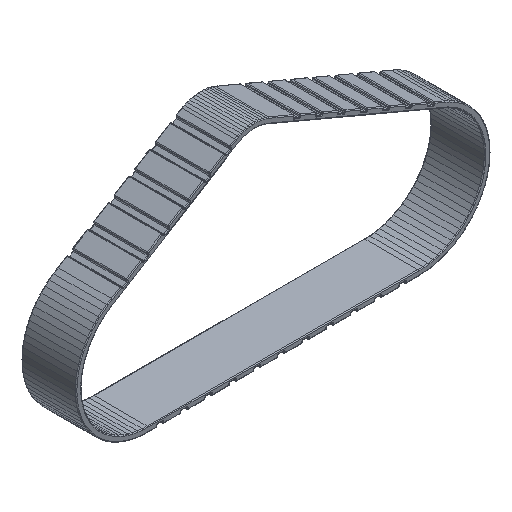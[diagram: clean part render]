
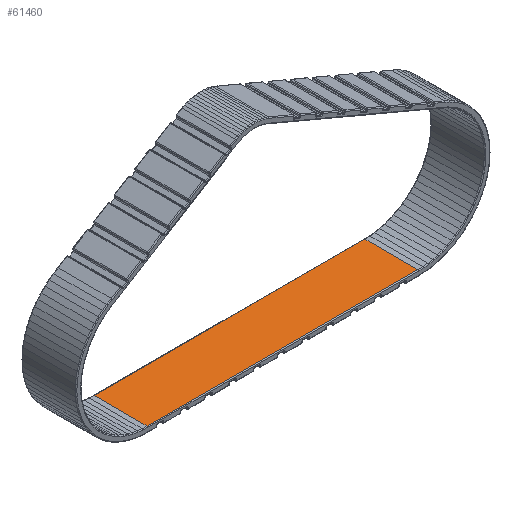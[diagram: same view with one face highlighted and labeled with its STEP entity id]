
A CAD part, isometric view. The second image highlights one B-rep face of the part: STEP entity #61460.
In plain terms, the highlighted planar face has unit normal (0, 0, 1).
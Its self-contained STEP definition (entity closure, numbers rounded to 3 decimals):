
#7145 = CYLINDRICAL_SURFACE('',#7146,0.4);
#7146 = AXIS2_PLACEMENT_3D('',#7147,#7148,#7149);
#7147 = CARTESIAN_POINT('',(-67.,65.4,-77.7));
#7148 = DIRECTION('',(1.,0.,0.));
#7149 = DIRECTION('',(0.,-1.,0.));
#16041 = CYLINDRICAL_SURFACE('',#16042,0.4);
#16042 = AXIS2_PLACEMENT_3D('',#16043,#16044,#16045);
#16043 = CARTESIAN_POINT('',(67.,91.6,-77.7));
#16044 = DIRECTION('',(-1.,0.,0.));
#16045 = DIRECTION('',(0.,1.,0.));
#32003 = VERTEX_POINT('',#32004);
#32004 = CARTESIAN_POINT('',(-67.,65.4,-77.3));
#32024 = EDGE_CURVE('',#32003,#32025,#32027,.T.);
#32025 = VERTEX_POINT('',#32026);
#32026 = CARTESIAN_POINT('',(67.,65.4,-77.3));
#32027 = SURFACE_CURVE('',#32028,(#32032,#32039),.PCURVE_S1.);
#32028 = LINE('',#32029,#32030);
#32029 = CARTESIAN_POINT('',(-67.,65.4,-77.3));
#32030 = VECTOR('',#32031,1.);
#32031 = DIRECTION('',(1.,0.,0.));
#32032 = PCURVE('',#7145,#32033);
#32033 = DEFINITIONAL_REPRESENTATION('',(#32034),#32038);
#32034 = LINE('',#32035,#32036);
#32035 = CARTESIAN_POINT('',(-1.571,0.));
#32036 = VECTOR('',#32037,1.);
#32037 = DIRECTION('',(-0.,1.));
#32038 = ( GEOMETRIC_REPRESENTATION_CONTEXT(2) 
PARAMETRIC_REPRESENTATION_CONTEXT() REPRESENTATION_CONTEXT('2D SPACE',''
  ) );
#32039 = PCURVE('',#32040,#32045);
#32040 = PLANE('',#32041);
#32041 = AXIS2_PLACEMENT_3D('',#32042,#32043,#32044);
#32042 = CARTESIAN_POINT('',(-6.474,72.026,
    -77.3));
#32043 = DIRECTION('',(-0.,-0.,-1.));
#32044 = DIRECTION('',(-1.,0.,0.));
#32045 = DEFINITIONAL_REPRESENTATION('',(#32046),#32050);
#32046 = LINE('',#32047,#32048);
#32047 = CARTESIAN_POINT('',(60.526,-6.626));
#32048 = VECTOR('',#32049,1.);
#32049 = DIRECTION('',(-1.,0.));
#32050 = ( GEOMETRIC_REPRESENTATION_CONTEXT(2) 
PARAMETRIC_REPRESENTATION_CONTEXT() REPRESENTATION_CONTEXT('2D SPACE',''
  ) );
#32112 = PLANE('',#32113);
#32113 = AXIS2_PLACEMENT_3D('',#32114,#32115,#32116);
#32114 = CARTESIAN_POINT('',(-67.639,79.087,
    -77.276));
#32115 = DIRECTION('',(-0.037,-0.,-0.999));
#32116 = DIRECTION('',(-0.999,0.,0.037));
#32146 = PLANE('',#32147);
#32147 = AXIS2_PLACEMENT_3D('',#32148,#32149,#32150);
#32148 = CARTESIAN_POINT('',(67.639,77.913,
    -77.276));
#32149 = DIRECTION('',(0.037,0.,-0.999));
#32150 = DIRECTION('',(-0.999,0.,-0.037));
#48805 = VERTEX_POINT('',#48806);
#48806 = CARTESIAN_POINT('',(67.,91.6,-77.3));
#48826 = EDGE_CURVE('',#48805,#48827,#48829,.T.);
#48827 = VERTEX_POINT('',#48828);
#48828 = CARTESIAN_POINT('',(-67.,91.6,-77.3));
#48829 = SURFACE_CURVE('',#48830,(#48834,#48841),.PCURVE_S1.);
#48830 = LINE('',#48831,#48832);
#48831 = CARTESIAN_POINT('',(67.,91.6,-77.3));
#48832 = VECTOR('',#48833,1.);
#48833 = DIRECTION('',(-1.,0.,0.));
#48834 = PCURVE('',#16041,#48835);
#48835 = DEFINITIONAL_REPRESENTATION('',(#48836),#48840);
#48836 = LINE('',#48837,#48838);
#48837 = CARTESIAN_POINT('',(-1.571,0.));
#48838 = VECTOR('',#48839,1.);
#48839 = DIRECTION('',(-0.,1.));
#48840 = ( GEOMETRIC_REPRESENTATION_CONTEXT(2) 
PARAMETRIC_REPRESENTATION_CONTEXT() REPRESENTATION_CONTEXT('2D SPACE',''
  ) );
#48841 = PCURVE('',#32040,#48842);
#48842 = DEFINITIONAL_REPRESENTATION('',(#48843),#48847);
#48843 = LINE('',#48844,#48845);
#48844 = CARTESIAN_POINT('',(-73.474,19.574));
#48845 = VECTOR('',#48846,1.);
#48846 = DIRECTION('',(1.,0.));
#48847 = ( GEOMETRIC_REPRESENTATION_CONTEXT(2) 
PARAMETRIC_REPRESENTATION_CONTEXT() REPRESENTATION_CONTEXT('2D SPACE',''
  ) );
#61460 = ADVANCED_FACE('',(#61461),#32040,.F.);
#61461 = FACE_BOUND('',#61462,.F.);
#61462 = EDGE_LOOP('',(#61463,#61484,#61485,#61506));
#61463 = ORIENTED_EDGE('',*,*,#61464,.F.);
#61464 = EDGE_CURVE('',#32025,#48805,#61465,.T.);
#61465 = SURFACE_CURVE('',#61466,(#61470,#61477),.PCURVE_S1.);
#61466 = LINE('',#61467,#61468);
#61467 = CARTESIAN_POINT('',(67.,64.,-77.3));
#61468 = VECTOR('',#61469,1.);
#61469 = DIRECTION('',(0.,1.,0.));
#61470 = PCURVE('',#32040,#61471);
#61471 = DEFINITIONAL_REPRESENTATION('',(#61472),#61476);
#61472 = LINE('',#61473,#61474);
#61473 = CARTESIAN_POINT('',(-73.474,-8.026));
#61474 = VECTOR('',#61475,1.);
#61475 = DIRECTION('',(0.,1.));
#61476 = ( GEOMETRIC_REPRESENTATION_CONTEXT(2) 
PARAMETRIC_REPRESENTATION_CONTEXT() REPRESENTATION_CONTEXT('2D SPACE',''
  ) );
#61477 = PCURVE('',#32146,#61478);
#61478 = DEFINITIONAL_REPRESENTATION('',(#61479),#61483);
#61479 = LINE('',#61480,#61481);
#61480 = CARTESIAN_POINT('',(0.639,-13.913));
#61481 = VECTOR('',#61482,1.);
#61482 = DIRECTION('',(0.,1.));
#61483 = ( GEOMETRIC_REPRESENTATION_CONTEXT(2) 
PARAMETRIC_REPRESENTATION_CONTEXT() REPRESENTATION_CONTEXT('2D SPACE',''
  ) );
#61484 = ORIENTED_EDGE('',*,*,#32024,.F.);
#61485 = ORIENTED_EDGE('',*,*,#61486,.T.);
#61486 = EDGE_CURVE('',#32003,#48827,#61487,.T.);
#61487 = SURFACE_CURVE('',#61488,(#61492,#61499),.PCURVE_S1.);
#61488 = LINE('',#61489,#61490);
#61489 = CARTESIAN_POINT('',(-67.,64.,-77.3));
#61490 = VECTOR('',#61491,1.);
#61491 = DIRECTION('',(0.,1.,0.));
#61492 = PCURVE('',#32040,#61493);
#61493 = DEFINITIONAL_REPRESENTATION('',(#61494),#61498);
#61494 = LINE('',#61495,#61496);
#61495 = CARTESIAN_POINT('',(60.526,-8.026));
#61496 = VECTOR('',#61497,1.);
#61497 = DIRECTION('',(0.,1.));
#61498 = ( GEOMETRIC_REPRESENTATION_CONTEXT(2) 
PARAMETRIC_REPRESENTATION_CONTEXT() REPRESENTATION_CONTEXT('2D SPACE',''
  ) );
#61499 = PCURVE('',#32112,#61500);
#61500 = DEFINITIONAL_REPRESENTATION('',(#61501),#61505);
#61501 = LINE('',#61502,#61503);
#61502 = CARTESIAN_POINT('',(-0.639,-15.087));
#61503 = VECTOR('',#61504,1.);
#61504 = DIRECTION('',(0.,1.));
#61505 = ( GEOMETRIC_REPRESENTATION_CONTEXT(2) 
PARAMETRIC_REPRESENTATION_CONTEXT() REPRESENTATION_CONTEXT('2D SPACE',''
  ) );
#61506 = ORIENTED_EDGE('',*,*,#48826,.F.);
